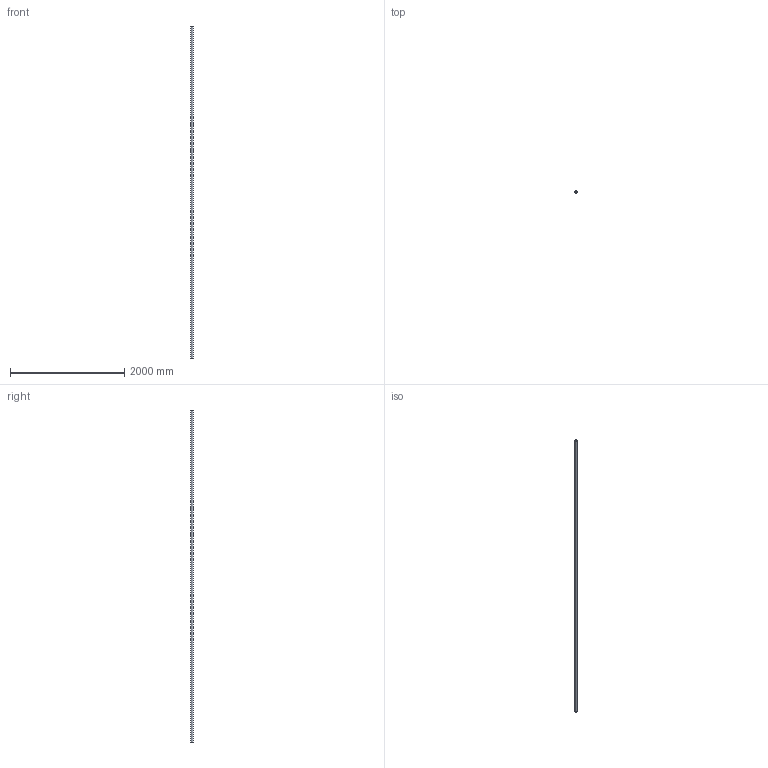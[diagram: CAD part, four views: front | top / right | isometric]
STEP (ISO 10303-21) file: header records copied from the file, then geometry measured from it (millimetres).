
FILE_DESCRIPTION(/* description */ (''),/* implementation_level */ '2;1');
FILE_NAME(/* name */ '2009 4000 00.stp',/* time_stamp */ '2025-06-20T15:05:04+08:00',/* author */ (''),/* organization */ (''),/* preprocessor_version */ 'ST-DEVELOPER v14',/* originating_system */ 'SIEMENS PLM Software NX 8.0',/* authorisation */ '');
FILE_SCHEMA (('AP203_CONFIGURATION_CONTROLLED_3D_DESIGN_OF_MECHANICAL_PARTS_AND_ASSEMBLIES_MIM_LF { 1 0 10303 403 2 1 2}'));
Length unit declared in the file: millimetre
Products named in the file (1): Admi055463CD57j1
Bounding box: 40.1 x 40.1 x 5800 mm (x, y, z)
Volume: 1122428.2 mm3; surface area: 1403422.3 mm2
Topology: 1 solids, 1 shells, 4 faces, 6 edges, 4 vertices
Faces by surface type: cylinder 2, plane 2
Full cylindrical faces by diameter (mm): 36.9 x1, 40.1 x1
Entity records: 180 total; most frequent: DIRECTION 18, CARTESIAN_POINT 13, AXIS2_PLACEMENT_3D 9, FACE_BOUND 8, EDGE_LOOP 8, ORIENTED_EDGE 8, PERSON_AND_ORGANIZATION 7, ORGANIZATION 7
